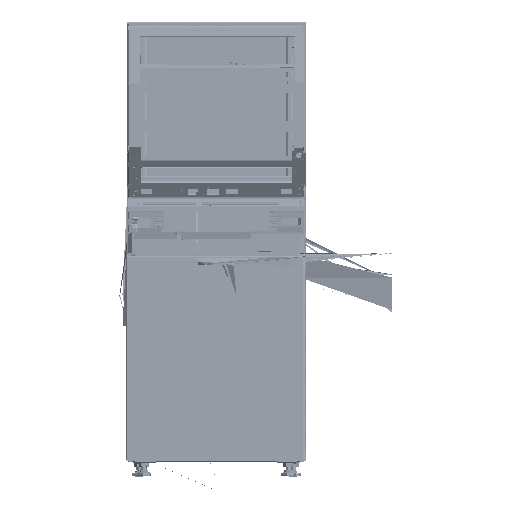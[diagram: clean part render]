
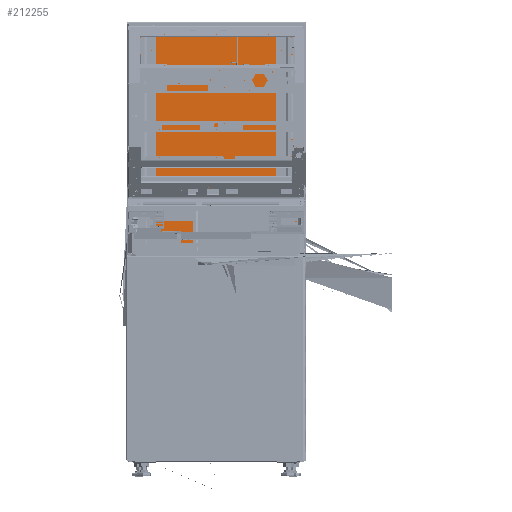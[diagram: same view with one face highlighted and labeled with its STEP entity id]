
A CAD part, top view. The second image highlights one B-rep face of the part: STEP entity #212255.
In plain terms, the highlighted planar face has unit normal (0, 0, 1).
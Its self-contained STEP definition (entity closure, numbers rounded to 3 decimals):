
#4653 = DIRECTION ( 'NONE',  ( 1., 0., 0. ) ) ;
#7999 = DIRECTION ( 'NONE',  ( 0., 0., 1. ) ) ;
#16289 = CIRCLE ( 'NONE', #259518, 1.5 ) ;
#31316 = DIRECTION ( 'NONE',  ( 1., 0., 0. ) ) ;
#38853 = FACE_BOUND ( 'NONE', #441877, .T. ) ;
#41322 = CARTESIAN_POINT ( 'NONE',  ( -266.2, 1.8, 1.6 ) ) ;
#52271 = VERTEX_POINT ( 'NONE', #481686 ) ;
#52537 = EDGE_LOOP ( 'NONE', ( #85264, #195057 ) ) ;
#54280 = FACE_BOUND ( 'NONE', #525568, .T. ) ;
#57797 = VERTEX_POINT ( 'NONE', #110168 ) ;
#61399 = CARTESIAN_POINT ( 'NONE',  ( -207., 1288.1, 1.6 ) ) ;
#76785 = EDGE_CURVE ( 'NONE', #573566, #353781, #233434, .T. ) ;
#80624 = EDGE_CURVE ( 'NONE', #353781, #573566, #190339, .T. ) ;
#84608 = VERTEX_POINT ( 'NONE', #408034 ) ;
#85264 = ORIENTED_EDGE ( 'NONE', *, *, #422165, .F. ) ;
#85665 = EDGE_CURVE ( 'NONE', #474475, #52271, #449124, .T. ) ;
#87237 = DIRECTION ( 'NONE',  ( 0., -1., 0. ) ) ;
#88333 = CARTESIAN_POINT ( 'NONE',  ( 266.2, 1.8, 1.6 ) ) ;
#91996 = ORIENTED_EDGE ( 'NONE', *, *, #76785, .F. ) ;
#96644 = PLANE ( 'NONE',  #389240 ) ;
#97081 = CARTESIAN_POINT ( 'NONE',  ( -207., 61.6, 1.6 ) ) ;
#101444 = ORIENTED_EDGE ( 'NONE', *, *, #425780, .F. ) ;
#106669 = CARTESIAN_POINT ( 'NONE',  ( 266.2, 1358.9, 1.6 ) ) ;
#110168 = CARTESIAN_POINT ( 'NONE',  ( -207., 63.1, 1.6 ) ) ;
#113497 = AXIS2_PLACEMENT_3D ( 'NONE', #469934, #561805, #467847 ) ;
#121082 = CIRCLE ( 'NONE', #605183, 1.5 ) ;
#141322 = CARTESIAN_POINT ( 'NONE',  ( 207., 61.6, 1.6 ) ) ;
#143459 = ORIENTED_EDGE ( 'NONE', *, *, #376102, .F. ) ;
#146708 = VERTEX_POINT ( 'NONE', #88333 ) ;
#160777 = FACE_OUTER_BOUND ( 'NONE', #481862, .T. ) ;
#168787 = FACE_BOUND ( 'NONE', #530374, .T. ) ;
#168840 = VECTOR ( 'NONE', #462737, 1000. ) ;
#171175 = DIRECTION ( 'NONE',  ( -1., 0., 0. ) ) ;
#172609 = CARTESIAN_POINT ( 'NONE',  ( 0., 1358.9, 1.6 ) ) ;
#187488 = CARTESIAN_POINT ( 'NONE',  ( 266.2, 680.35, 1.6 ) ) ;
#190339 = CIRCLE ( 'NONE', #437852, 1.5 ) ;
#195057 = ORIENTED_EDGE ( 'NONE', *, *, #410612, .F. ) ;
#200229 = CARTESIAN_POINT ( 'NONE',  ( -207., 1288.1, 1.6 ) ) ;
#202317 = DIRECTION ( 'NONE',  ( 0., 0., 1. ) ) ;
#202323 = DIRECTION ( 'NONE',  ( 0., -1., 0. ) ) ;
#208002 = VECTOR ( 'NONE', #171175, 1000. ) ;
#212255 = ADVANCED_FACE ( 'NONE', ( #54280, #38853, #275810, #168787, #160777 ), #96644, .T. ) ;
#224482 = ORIENTED_EDGE ( 'NONE', *, *, #551939, .F. ) ;
#232356 = ORIENTED_EDGE ( 'NONE', *, *, #80624, .F. ) ;
#233434 = CIRCLE ( 'NONE', #546314, 1.5 ) ;
#237468 = DIRECTION ( 'NONE',  ( 1., 0., 0. ) ) ;
#239570 = DIRECTION ( 'NONE',  ( 0., 0., 1. ) ) ;
#259518 = AXIS2_PLACEMENT_3D ( 'NONE', #480885, #474588, #529932 ) ;
#275810 = FACE_BOUND ( 'NONE', #52537, .T. ) ;
#278128 = EDGE_CURVE ( 'NONE', #146708, #362786, #291770, .T. ) ;
#278353 = VERTEX_POINT ( 'NONE', #106669 ) ;
#288766 = LINE ( 'NONE', #345366, #579114 ) ;
#291770 = LINE ( 'NONE', #559464, #208002 ) ;
#292029 = DIRECTION ( 'NONE',  ( 0., -1., 0. ) ) ;
#294919 = DIRECTION ( 'NONE',  ( 0., 0., 1. ) ) ;
#298565 = LINE ( 'NONE', #172609, #168840 ) ;
#298754 = AXIS2_PLACEMENT_3D ( 'NONE', #141322, #239570, #237468 ) ;
#301972 = DIRECTION ( 'NONE',  ( 0., 0., 1. ) ) ;
#302156 = CIRCLE ( 'NONE', #470947, 1.5 ) ;
#302396 = DIRECTION ( 'NONE',  ( 0., -1., 0. ) ) ;
#319580 = CARTESIAN_POINT ( 'NONE',  ( 207., 1288.1, 1.6 ) ) ;
#325529 = CARTESIAN_POINT ( 'NONE',  ( 205.5, 61.6, 1.6 ) ) ;
#328884 = CARTESIAN_POINT ( 'NONE',  ( 205.5, 1288.1, 1.6 ) ) ;
#330842 = ORIENTED_EDGE ( 'NONE', *, *, #278128, .F. ) ;
#345366 = CARTESIAN_POINT ( 'NONE',  ( -266.2, 680.35, 1.6 ) ) ;
#349007 = VERTEX_POINT ( 'NONE', #586600 ) ;
#353781 = VERTEX_POINT ( 'NONE', #522100 ) ;
#362786 = VERTEX_POINT ( 'NONE', #41322 ) ;
#372459 = ORIENTED_EDGE ( 'NONE', *, *, #382827, .F. ) ;
#374231 = AXIS2_PLACEMENT_3D ( 'NONE', #594434, #301972, #543191 ) ;
#376102 = EDGE_CURVE ( 'NONE', #278353, #146708, #604730, .T. ) ;
#382827 = EDGE_CURVE ( 'NONE', #57797, #84608, #302156, .T. ) ;
#389240 = AXIS2_PLACEMENT_3D ( 'NONE', #587351, #294919, #4653 ) ;
#394644 = EDGE_CURVE ( 'NONE', #84608, #57797, #16289, .T. ) ;
#406539 = CARTESIAN_POINT ( 'NONE',  ( -266.2, 1358.9, 1.6 ) ) ;
#408034 = CARTESIAN_POINT ( 'NONE',  ( -207., 60.1, 1.6 ) ) ;
#408522 = VERTEX_POINT ( 'NONE', #406539 ) ;
#410612 = EDGE_CURVE ( 'NONE', #628843, #349007, #624549, .T. ) ;
#422165 = EDGE_CURVE ( 'NONE', #349007, #628843, #567484, .T. ) ;
#425780 = EDGE_CURVE ( 'NONE', #52271, #474475, #121082, .T. ) ;
#437289 = ORIENTED_EDGE ( 'NONE', *, *, #85665, .F. ) ;
#437852 = AXIS2_PLACEMENT_3D ( 'NONE', #200229, #202317, #302396 ) ;
#441877 = EDGE_LOOP ( 'NONE', ( #232356, #91996 ) ) ;
#446021 = EDGE_CURVE ( 'NONE', #408522, #362786, #288766, .T. ) ;
#449124 = CIRCLE ( 'NONE', #374231, 1.5 ) ;
#459503 = VECTOR ( 'NONE', #87237, 1000. ) ;
#462737 = DIRECTION ( 'NONE',  ( 1., 0., 0. ) ) ;
#467847 = DIRECTION ( 'NONE',  ( 1., 0., 0. ) ) ;
#469934 = CARTESIAN_POINT ( 'NONE',  ( 207., 61.6, 1.6 ) ) ;
#470947 = AXIS2_PLACEMENT_3D ( 'NONE', #97081, #536489, #577311 ) ;
#473339 = ORIENTED_EDGE ( 'NONE', *, *, #446021, .T. ) ;
#474475 = VERTEX_POINT ( 'NONE', #328884 ) ;
#474588 = DIRECTION ( 'NONE',  ( 0., 0., 1. ) ) ;
#480885 = CARTESIAN_POINT ( 'NONE',  ( -207., 61.6, 1.6 ) ) ;
#481686 = CARTESIAN_POINT ( 'NONE',  ( 208.5, 1288.1, 1.6 ) ) ;
#481862 = EDGE_LOOP ( 'NONE', ( #224482, #473339, #330842, #143459 ) ) ;
#522100 = CARTESIAN_POINT ( 'NONE',  ( -207., 1286.6, 1.6 ) ) ;
#525568 = EDGE_LOOP ( 'NONE', ( #101444, #437289 ) ) ;
#529932 = DIRECTION ( 'NONE',  ( 0., -1., 0. ) ) ;
#530374 = EDGE_LOOP ( 'NONE', ( #538591, #372459 ) ) ;
#536489 = DIRECTION ( 'NONE',  ( 0., 0., 1. ) ) ;
#538591 = ORIENTED_EDGE ( 'NONE', *, *, #394644, .F. ) ;
#541802 = CARTESIAN_POINT ( 'NONE',  ( -207., 1289.6, 1.6 ) ) ;
#543191 = DIRECTION ( 'NONE',  ( 1., 0., 0. ) ) ;
#546314 = AXIS2_PLACEMENT_3D ( 'NONE', #61399, #7999, #202323 ) ;
#551939 = EDGE_CURVE ( 'NONE', #408522, #278353, #298565, .T. ) ;
#559464 = CARTESIAN_POINT ( 'NONE',  ( 0., 1.8, 1.6 ) ) ;
#561805 = DIRECTION ( 'NONE',  ( 0., 0., 1. ) ) ;
#567484 = CIRCLE ( 'NONE', #113497, 1.5 ) ;
#573566 = VERTEX_POINT ( 'NONE', #541802 ) ;
#577311 = DIRECTION ( 'NONE',  ( 0., -1., 0. ) ) ;
#579114 = VECTOR ( 'NONE', #292029, 1000. ) ;
#586600 = CARTESIAN_POINT ( 'NONE',  ( 208.5, 61.6, 1.6 ) ) ;
#587351 = CARTESIAN_POINT ( 'NONE',  ( -276.848, -25.342, 1.6 ) ) ;
#594434 = CARTESIAN_POINT ( 'NONE',  ( 207., 1288.1, 1.6 ) ) ;
#604730 = LINE ( 'NONE', #187488, #459503 ) ;
#605183 = AXIS2_PLACEMENT_3D ( 'NONE', #319580, #614082, #31316 ) ;
#614082 = DIRECTION ( 'NONE',  ( 0., 0., 1. ) ) ;
#624549 = CIRCLE ( 'NONE', #298754, 1.5 ) ;
#628843 = VERTEX_POINT ( 'NONE', #325529 ) ;
